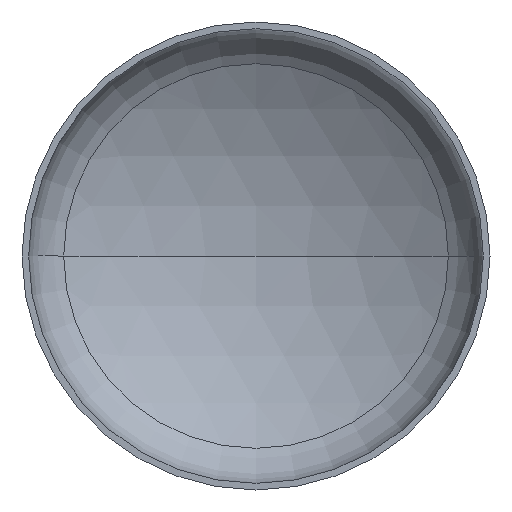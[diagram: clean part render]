
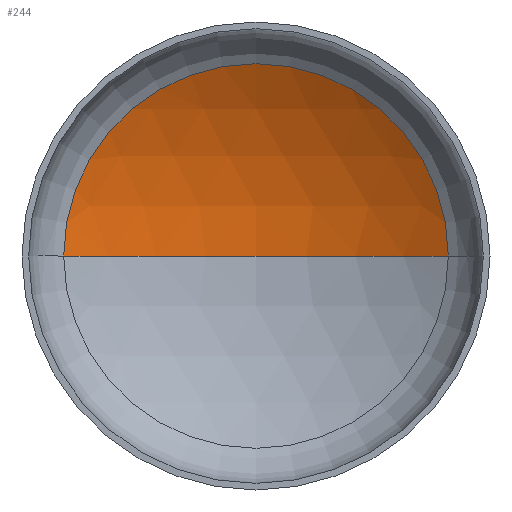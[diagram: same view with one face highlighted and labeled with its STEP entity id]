
A CAD part, front view. The second image highlights one B-rep face of the part: STEP entity #244.
In plain terms, the highlighted spherical face has radius 2080 mm.
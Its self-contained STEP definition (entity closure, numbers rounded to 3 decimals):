
#10 = AXIS2_PLACEMENT_3D ( 'NONE', #165, #210, #329 ) ;
#11 = EDGE_LOOP ( 'NONE', ( #42, #156, #140 ) ) ;
#12 = VERTEX_POINT ( 'NONE', #255 ) ;
#18 = AXIS2_PLACEMENT_3D ( 'NONE', #347, #253, #151 ) ;
#24 = AXIS2_PLACEMENT_3D ( 'NONE', #116, #157, #160 ) ;
#37 = CIRCLE ( 'NONE', #18, 2080. ) ;
#39 = CARTESIAN_POINT ( 'NONE',  ( 0., -1321.399, 0. ) ) ;
#42 = ORIENTED_EDGE ( 'NONE', *, *, #356, .F. ) ;
#74 = DIRECTION ( 'NONE',  ( 0., 0., -1. ) ) ;
#87 = AXIS2_PLACEMENT_3D ( 'NONE', #39, #74, #176 ) ;
#116 = CARTESIAN_POINT ( 'NONE',  ( 0., -1321.399, 0. ) ) ;
#130 = VERTEX_POINT ( 'NONE', #336 ) ;
#134 = VERTEX_POINT ( 'NONE', #317 ) ;
#140 = ORIENTED_EDGE ( 'NONE', *, *, #365, .T. ) ;
#151 = DIRECTION ( 'NONE',  ( -1., 0., 0. ) ) ;
#156 = ORIENTED_EDGE ( 'NONE', *, *, #355, .T. ) ;
#157 = DIRECTION ( 'NONE',  ( 0., 0., 1. ) ) ;
#160 = DIRECTION ( 'NONE',  ( 1., 0., 0. ) ) ;
#165 = CARTESIAN_POINT ( 'NONE',  ( 0., 463.19, 0. ) ) ;
#176 = DIRECTION ( 'NONE',  ( -1., 0., 0. ) ) ;
#189 = CIRCLE ( 'NONE', #10, 1068.476 ) ;
#210 = DIRECTION ( 'NONE',  ( 0., -1., 0. ) ) ;
#218 = FACE_OUTER_BOUND ( 'NONE', #11, .T. ) ;
#239 = CIRCLE ( 'NONE', #24, 2080. ) ;
#244 = ADVANCED_FACE ( 'NONE', ( #218 ), #400, .F. ) ;
#253 = DIRECTION ( 'NONE',  ( 0., 0., -1. ) ) ;
#255 = CARTESIAN_POINT ( 'NONE',  ( 1068.476, 463.19, 0. ) ) ;
#317 = CARTESIAN_POINT ( 'NONE',  ( -1068.476, 463.19, 0. ) ) ;
#329 = DIRECTION ( 'NONE',  ( 1., 0., 0. ) ) ;
#336 = CARTESIAN_POINT ( 'NONE',  ( 0., 758.601, 0. ) ) ;
#347 = CARTESIAN_POINT ( 'NONE',  ( 0., -1321.399, 0. ) ) ;
#355 = EDGE_CURVE ( 'NONE', #130, #12, #37, .T. ) ;
#356 = EDGE_CURVE ( 'NONE', #130, #134, #239, .T. ) ;
#365 = EDGE_CURVE ( 'NONE', #12, #134, #189, .T. ) ;
#400 = SPHERICAL_SURFACE ( 'NONE', #87, 2080. ) ;
